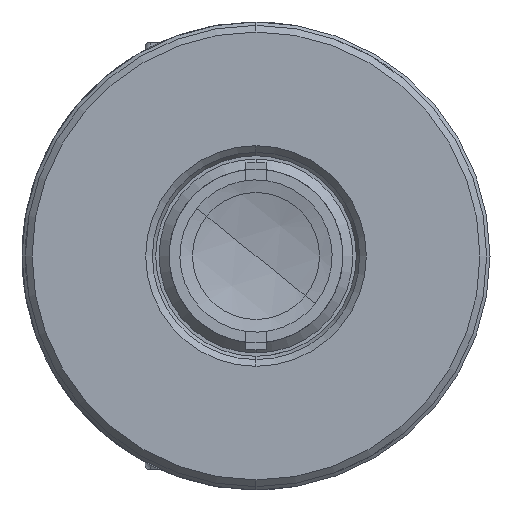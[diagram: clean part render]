
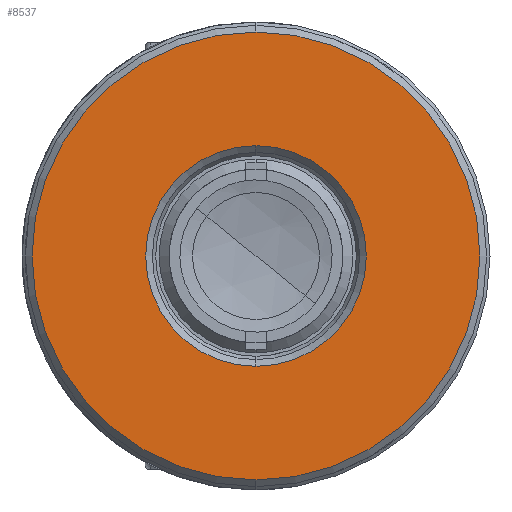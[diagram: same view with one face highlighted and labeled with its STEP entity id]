
A CAD part, left-side view. The second image highlights one B-rep face of the part: STEP entity #8537.
In plain terms, the highlighted planar face has unit normal (-1, 0, 0).
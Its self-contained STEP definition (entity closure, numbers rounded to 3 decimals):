
#342 = EDGE_CURVE ( 'NONE', #7086, #5845, #9230, .T. ) ;
#1167 = ORIENTED_EDGE ( 'NONE', *, *, #6756, .T. ) ;
#1507 = DIRECTION ( 'NONE',  ( 1., 0., 0. ) ) ;
#1622 = DIRECTION ( 'NONE',  ( -1., 0., 0. ) ) ;
#2270 = DIRECTION ( 'NONE',  ( 1., 0., 0. ) ) ;
#3238 = VERTEX_POINT ( 'NONE', #5231 ) ;
#3653 = CARTESIAN_POINT ( 'NONE',  ( 0., 0., 0. ) ) ;
#3721 = PLANE ( 'NONE',  #9257 ) ;
#3932 = DIRECTION ( 'NONE',  ( 1., 0., 0. ) ) ;
#4144 = AXIS2_PLACEMENT_3D ( 'NONE', #3653, #8958, #4431 ) ;
#4309 = CIRCLE ( 'NONE', #4518, 8.25 ) ;
#4338 = AXIS2_PLACEMENT_3D ( 'NONE', #8493, #3932, #9229 ) ;
#4431 = DIRECTION ( 'NONE',  ( 0., 0., -1. ) ) ;
#4518 = AXIS2_PLACEMENT_3D ( 'NONE', #6824, #2270, #7573 ) ;
#4569 = DIRECTION ( 'NONE',  ( 0., 0., -1. ) ) ;
#4824 = CARTESIAN_POINT ( 'NONE',  ( 0., 0., 16.75 ) ) ;
#5231 = CARTESIAN_POINT ( 'NONE',  ( 0., 0., -8.25 ) ) ;
#5299 = EDGE_CURVE ( 'NONE', #3238, #5906, #4309, .T. ) ;
#5425 = EDGE_CURVE ( 'NONE', #5906, #3238, #5479, .T. ) ;
#5479 = CIRCLE ( 'NONE', #4338, 8.25 ) ;
#5845 = VERTEX_POINT ( 'NONE', #4824 ) ;
#5906 = VERTEX_POINT ( 'NONE', #7898 ) ;
#5998 = CIRCLE ( 'NONE', #4144, 16.75 ) ;
#6049 = CARTESIAN_POINT ( 'NONE',  ( 0., 7.75, 0. ) ) ;
#6534 = EDGE_LOOP ( 'NONE', ( #8928, #8045 ) ) ;
#6756 = EDGE_CURVE ( 'NONE', #5845, #7086, #5998, .T. ) ;
#6824 = CARTESIAN_POINT ( 'NONE',  ( 0., 0., 0. ) ) ;
#6825 = DIRECTION ( 'NONE',  ( 0., 0., -1. ) ) ;
#7073 = CARTESIAN_POINT ( 'NONE',  ( 0., 0., -16.75 ) ) ;
#7086 = VERTEX_POINT ( 'NONE', #7073 ) ;
#7271 = AXIS2_PLACEMENT_3D ( 'NONE', #8360, #1622, #4569 ) ;
#7468 = FACE_BOUND ( 'NONE', #6534, .T. ) ;
#7573 = DIRECTION ( 'NONE',  ( 0., 0., -1. ) ) ;
#7702 = FACE_OUTER_BOUND ( 'NONE', #9083, .T. ) ;
#7898 = CARTESIAN_POINT ( 'NONE',  ( 0., 0., 8.25 ) ) ;
#8045 = ORIENTED_EDGE ( 'NONE', *, *, #5299, .T. ) ;
#8057 = ORIENTED_EDGE ( 'NONE', *, *, #342, .T. ) ;
#8360 = CARTESIAN_POINT ( 'NONE',  ( 0., 0., 0. ) ) ;
#8493 = CARTESIAN_POINT ( 'NONE',  ( 0., 0., 0. ) ) ;
#8537 = ADVANCED_FACE ( 'NONE', ( #7468, #7702 ), #3721, .F. ) ;
#8928 = ORIENTED_EDGE ( 'NONE', *, *, #5425, .T. ) ;
#8958 = DIRECTION ( 'NONE',  ( -1., 0., 0. ) ) ;
#9083 = EDGE_LOOP ( 'NONE', ( #8057, #1167 ) ) ;
#9229 = DIRECTION ( 'NONE',  ( 0., 0., -1. ) ) ;
#9230 = CIRCLE ( 'NONE', #7271, 16.75 ) ;
#9257 = AXIS2_PLACEMENT_3D ( 'NONE', #6049, #1507, #6825 ) ;
